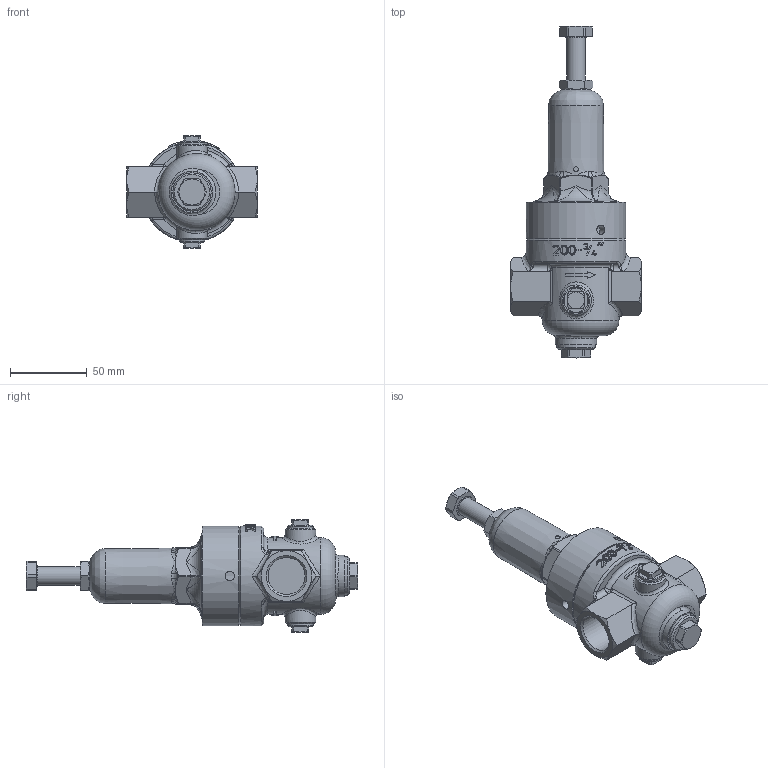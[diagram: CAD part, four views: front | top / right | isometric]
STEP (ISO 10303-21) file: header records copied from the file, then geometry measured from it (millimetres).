
FILE_DESCRIPTION(/* description */ (''),/* implementation_level */ '2;1');
FILE_NAME(/* name */ 'U:/AirCom-Produktdokumentation/Druckregler/RWI/Zeichnungen/CAD-Aircom/3D/B-RWI-06I.step',/* time_stamp */ '2022-07-01T14:02:58+02:00',/* author */ (''),/* organization */ (''),/* preprocessor_version */ 'ST-DEVELOPER v19',/* originating_system */ 'Autodesk Translation Framework v11.7.0.108',/* authorisation */ '');
FILE_SCHEMA (('AUTOMOTIVE_DESIGN { 1 0 10303 214 3 1 1 }'));
Length unit declared in the file: millimetre
Products named in the file (1): 022603_step
Bounding box: 85 x 216.19 x 73 mm (x, y, z)
Volume: 337542.9 mm3; surface area: 42385.8 mm2
Topology: 1 solids, 2 shells, 417 faces, 1079 edges, 652 vertices
Faces by surface type: plane 142, bspline 101, cylinder 88, cone 65, torus 15, sphere 6
Full cylindrical faces by diameter (mm): 3 x1, 6.1 x3, 12 x1, 14 x1, 16.5 x2, 20 x2, 24.12 x2, 25 x1, 27 x1, 50 x1, 58.28 x1, 65 x2
Entity records: 19550 total; most frequent: CARTESIAN_POINT 9826, ORIENTED_EDGE 2062, DIRECTION 1779, EDGE_CURVE 1031, AXIS2_PLACEMENT_3D 738, VERTEX_POINT 651, EDGE_LOOP 450, FACE_OUTER_BOUND 416
